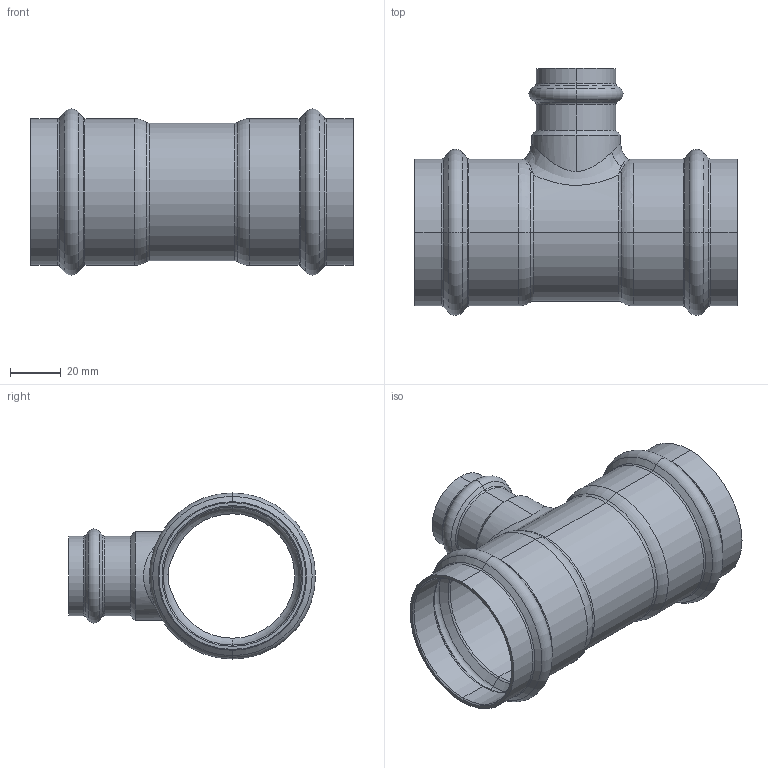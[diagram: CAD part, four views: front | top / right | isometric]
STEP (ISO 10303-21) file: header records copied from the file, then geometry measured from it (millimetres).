
FILE_DESCRIPTION (( 'STEP AP203' ), '1' );
FILE_NAME ('SP5130 Ø54-28-54.STEP', '2017-04-25T15:09:45', ( '' ), ( '' ), 'SwSTEP 2.0', 'SolidWorks 2016', '' );
FILE_SCHEMA (( 'CONFIG_CONTROL_DESIGN' ));
Length unit declared in the file: millimetre
Products named in the file (1): SP5130 Ø54-28-54
Bounding box: 127 x 97.2 x 65.4 mm (x, y, z)
Volume: 49225.1 mm3; surface area: 54387.1 mm2
Topology: 1 solids, 1 shells, 133 faces, 284 edges, 148 vertices
Faces by surface type: torus 50, cone 36, cylinder 34, bspline 10, plane 3
Entity records: 5054 total; most frequent: CARTESIAN_POINT 2123, DIRECTION 680, ORIENTED_EDGE 560, AXIS2_PLACEMENT_3D 306, EDGE_CURVE 280, CIRCLE 182, VERTEX_POINT 148, EDGE_LOOP 136
